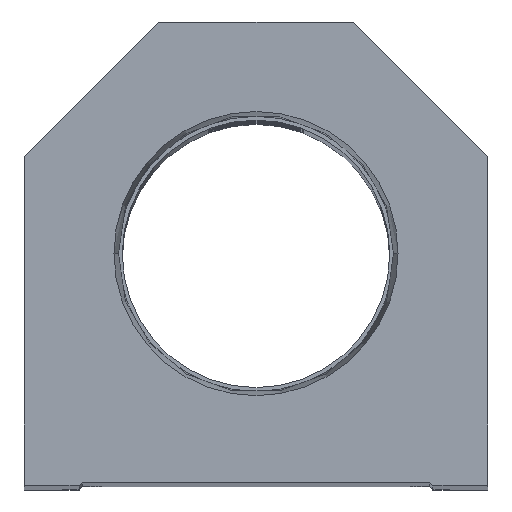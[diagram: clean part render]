
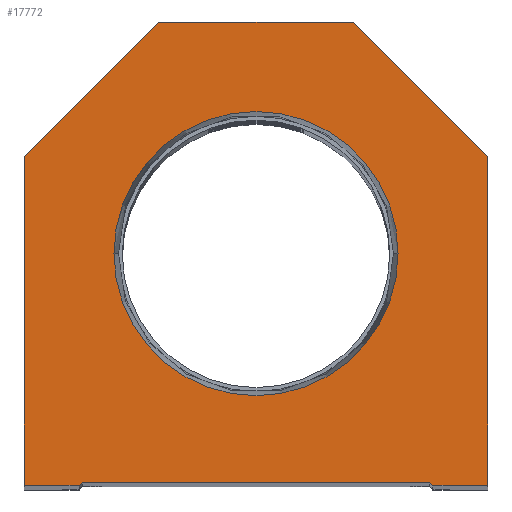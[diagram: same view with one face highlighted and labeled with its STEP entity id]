
A CAD part, top view. The second image highlights one B-rep face of the part: STEP entity #17772.
In plain terms, the highlighted planar face has unit normal (0, 0, 1).
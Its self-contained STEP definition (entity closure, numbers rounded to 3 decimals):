
#147 = VECTOR ( 'NONE', #15766, 1000. ) ;
#279 = CARTESIAN_POINT ( 'NONE',  ( 14.55, 14.55, 0. ) ) ;
#336 = DIRECTION ( 'NONE',  ( 0., 0., 1. ) ) ;
#878 = CARTESIAN_POINT ( 'NONE',  ( 28.6, 0., 0. ) ) ;
#1018 = CARTESIAN_POINT ( 'NONE',  ( 28.6, 0.5, 0. ) ) ;
#1032 = ORIENTED_EDGE ( 'NONE', *, *, #9786, .F. ) ;
#1199 = CARTESIAN_POINT ( 'NONE',  ( 29.1, 0., 0. ) ) ;
#1494 = CARTESIAN_POINT ( 'NONE',  ( 38.1, 0., 0. ) ) ;
#2001 = VERTEX_POINT ( 'NONE', #17414 ) ;
#2335 = CARTESIAN_POINT ( 'NONE',  ( -28.6, 0.5, 0. ) ) ;
#2711 = AXIS2_PLACEMENT_3D ( 'NONE', #6382, #13205, #3081 ) ;
#2862 = CARTESIAN_POINT ( 'NONE',  ( 38.1, 54.1, 0. ) ) ;
#2875 = LINE ( 'NONE', #878, #9695 ) ;
#3015 = ORIENTED_EDGE ( 'NONE', *, *, #15442, .T. ) ;
#3081 = DIRECTION ( 'NONE',  ( 1., 0., 0. ) ) ;
#3348 = EDGE_CURVE ( 'NONE', #14618, #7443, #15865, .T. ) ;
#3523 = EDGE_CURVE ( 'NONE', #13056, #12720, #15406, .T. ) ;
#3616 = DIRECTION ( 'NONE',  ( 0., 1., 0. ) ) ;
#3881 = EDGE_CURVE ( 'NONE', #12720, #18363, #2875, .T. ) ;
#4009 = VECTOR ( 'NONE', #3616, 1000. ) ;
#4372 = ORIENTED_EDGE ( 'NONE', *, *, #15992, .T. ) ;
#4564 = DIRECTION ( 'NONE',  ( -0.707, 0.707, 0. ) ) ;
#4804 = CARTESIAN_POINT ( 'NONE',  ( 38.1, 54.1, 0. ) ) ;
#4806 = ORIENTED_EDGE ( 'NONE', *, *, #3523, .T. ) ;
#4934 = ORIENTED_EDGE ( 'NONE', *, *, #5740, .F. ) ;
#5281 = VECTOR ( 'NONE', #18834, 1000. ) ;
#5740 = EDGE_CURVE ( 'NONE', #18919, #16066, #13952, .T. ) ;
#6118 = CARTESIAN_POINT ( 'NONE',  ( 16., 76.2, 0. ) ) ;
#6361 = CARTESIAN_POINT ( 'NONE',  ( -38.1, 54.1, 0. ) ) ;
#6382 = CARTESIAN_POINT ( 'NONE',  ( 0., 38.1, 0. ) ) ;
#6685 = VECTOR ( 'NONE', #11959, 1000. ) ;
#7007 = CARTESIAN_POINT ( 'NONE',  ( -38.1, 0., 0. ) ) ;
#7013 = CARTESIAN_POINT ( 'NONE',  ( -29.1, 0., 0. ) ) ;
#7216 = CARTESIAN_POINT ( 'NONE',  ( -23.374, 38.1, 0. ) ) ;
#7443 = VERTEX_POINT ( 'NONE', #7013 ) ;
#7469 = ORIENTED_EDGE ( 'NONE', *, *, #3881, .T. ) ;
#7499 = VECTOR ( 'NONE', #14366, 1000. ) ;
#7548 = CIRCLE ( 'NONE', #9677, 23.374 ) ;
#7605 = EDGE_CURVE ( 'NONE', #11389, #2001, #12704, .T. ) ;
#8291 = EDGE_CURVE ( 'NONE', #19581, #11389, #19668, .T. ) ;
#8333 = LINE ( 'NONE', #7007, #6685 ) ;
#8503 = CARTESIAN_POINT ( 'NONE',  ( -38.1, 54.1, 0. ) ) ;
#8735 = EDGE_CURVE ( 'NONE', #11159, #13056, #9050, .T. ) ;
#9050 = LINE ( 'NONE', #2335, #147 ) ;
#9166 = FACE_OUTER_BOUND ( 'NONE', #9638, .T. ) ;
#9238 = DIRECTION ( 'NONE',  ( 1., 0., 0. ) ) ;
#9638 = EDGE_LOOP ( 'NONE', ( #20486, #3015, #19240, #4806, #7469, #13788, #12507, #13516, #20121, #4372 ) ) ;
#9677 = AXIS2_PLACEMENT_3D ( 'NONE', #11906, #12014, #9935 ) ;
#9695 = VECTOR ( 'NONE', #14322, 1000. ) ;
#9786 = EDGE_CURVE ( 'NONE', #16066, #18919, #7548, .T. ) ;
#9813 = VERTEX_POINT ( 'NONE', #8503 ) ;
#9935 = DIRECTION ( 'NONE',  ( 1., 0., 0. ) ) ;
#9944 = VECTOR ( 'NONE', #13186, 1000. ) ;
#10445 = CARTESIAN_POINT ( 'NONE',  ( -38.1, 0., 0. ) ) ;
#10463 = CARTESIAN_POINT ( 'NONE',  ( 23.374, 38.1, 0. ) ) ;
#10866 = CARTESIAN_POINT ( 'NONE',  ( -28.6, 0., 0. ) ) ;
#11159 = VERTEX_POINT ( 'NONE', #13406 ) ;
#11252 = AXIS2_PLACEMENT_3D ( 'NONE', #17260, #336, #14005 ) ;
#11389 = VERTEX_POINT ( 'NONE', #6118 ) ;
#11906 = CARTESIAN_POINT ( 'NONE',  ( 0., 38.1, 0. ) ) ;
#11959 = DIRECTION ( 'NONE',  ( 0., -1., 0. ) ) ;
#12014 = DIRECTION ( 'NONE',  ( 0., 0., 1. ) ) ;
#12507 = ORIENTED_EDGE ( 'NONE', *, *, #8291, .T. ) ;
#12704 = LINE ( 'NONE', #19140, #7499 ) ;
#12720 = VERTEX_POINT ( 'NONE', #1199 ) ;
#13056 = VERTEX_POINT ( 'NONE', #1018 ) ;
#13186 = DIRECTION ( 'NONE',  ( -0.707, -0.707, 0. ) ) ;
#13205 = DIRECTION ( 'NONE',  ( 0., 0., 1. ) ) ;
#13397 = LINE ( 'NONE', #6361, #9944 ) ;
#13406 = CARTESIAN_POINT ( 'NONE',  ( -28.6, 0.5, 0. ) ) ;
#13516 = ORIENTED_EDGE ( 'NONE', *, *, #7605, .T. ) ;
#13570 = VECTOR ( 'NONE', #17072, 1000. ) ;
#13788 = ORIENTED_EDGE ( 'NONE', *, *, #19924, .T. ) ;
#13952 = CIRCLE ( 'NONE', #2711, 23.374 ) ;
#14005 = DIRECTION ( 'NONE',  ( 1., 0., 0. ) ) ;
#14322 = DIRECTION ( 'NONE',  ( 1., 0., 0. ) ) ;
#14366 = DIRECTION ( 'NONE',  ( -1., 0., 0. ) ) ;
#14618 = VERTEX_POINT ( 'NONE', #10445 ) ;
#14845 = EDGE_LOOP ( 'NONE', ( #4934, #1032 ) ) ;
#15059 = LINE ( 'NONE', #1494, #4009 ) ;
#15406 = LINE ( 'NONE', #279, #13570 ) ;
#15435 = CARTESIAN_POINT ( 'NONE',  ( 38.1, 0., 0. ) ) ;
#15442 = EDGE_CURVE ( 'NONE', #7443, #11159, #20513, .T. ) ;
#15766 = DIRECTION ( 'NONE',  ( 1., 0., 0. ) ) ;
#15865 = LINE ( 'NONE', #10866, #20650 ) ;
#15899 = FACE_BOUND ( 'NONE', #14845, .T. ) ;
#15992 = EDGE_CURVE ( 'NONE', #9813, #14618, #8333, .T. ) ;
#16066 = VERTEX_POINT ( 'NONE', #7216 ) ;
#17072 = DIRECTION ( 'NONE',  ( 0.707, -0.707, 0. ) ) ;
#17260 = CARTESIAN_POINT ( 'NONE',  ( 0., 0., 0. ) ) ;
#17414 = CARTESIAN_POINT ( 'NONE',  ( -16., 76.2, 0. ) ) ;
#17737 = VECTOR ( 'NONE', #4564, 1000. ) ;
#17772 = ADVANCED_FACE ( 'NONE', ( #15899, #9166 ), #18887, .T. ) ;
#18363 = VERTEX_POINT ( 'NONE', #15435 ) ;
#18834 = DIRECTION ( 'NONE',  ( 0.707, 0.707, 0. ) ) ;
#18887 = PLANE ( 'NONE',  #11252 ) ;
#18919 = VERTEX_POINT ( 'NONE', #10463 ) ;
#19140 = CARTESIAN_POINT ( 'NONE',  ( 16., 76.2, 0. ) ) ;
#19240 = ORIENTED_EDGE ( 'NONE', *, *, #8735, .T. ) ;
#19364 = EDGE_CURVE ( 'NONE', #2001, #9813, #13397, .T. ) ;
#19581 = VERTEX_POINT ( 'NONE', #2862 ) ;
#19668 = LINE ( 'NONE', #4804, #17737 ) ;
#19924 = EDGE_CURVE ( 'NONE', #18363, #19581, #15059, .T. ) ;
#20121 = ORIENTED_EDGE ( 'NONE', *, *, #19364, .T. ) ;
#20410 = CARTESIAN_POINT ( 'NONE',  ( -14.55, 14.55, 0. ) ) ;
#20486 = ORIENTED_EDGE ( 'NONE', *, *, #3348, .T. ) ;
#20513 = LINE ( 'NONE', #20410, #5281 ) ;
#20650 = VECTOR ( 'NONE', #9238, 1000. ) ;
